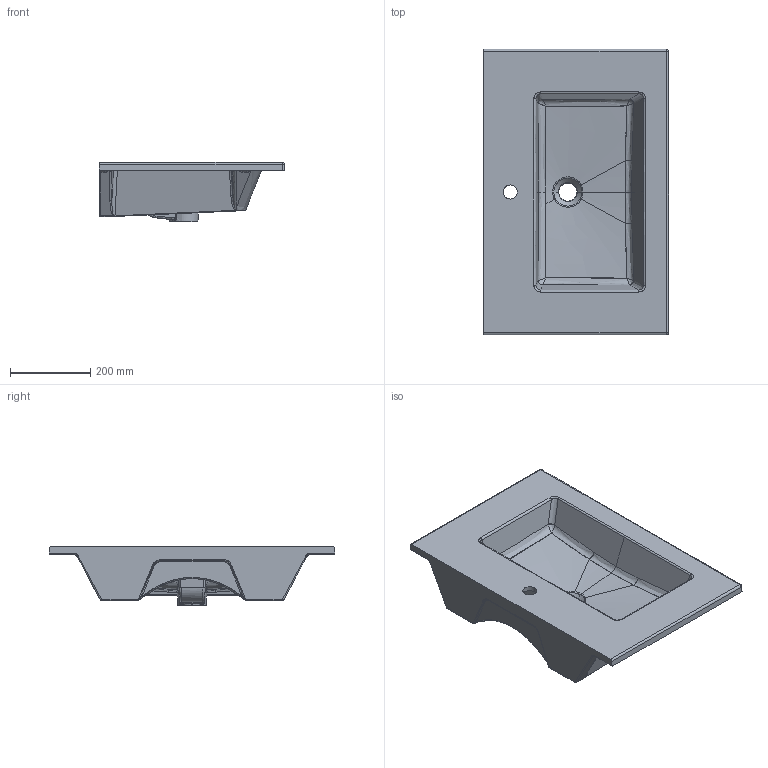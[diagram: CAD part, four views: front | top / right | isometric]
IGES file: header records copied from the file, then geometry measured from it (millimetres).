
Start section: START RECORD GO HERE.
Global section: file name: 7222.igs; native system: DASSAULT SYSTEMES CATIA V5 R19 - www.3ds.com; preprocessor: CATIA Version 5 Release 19 SP 5 ; author: gioge; organization: LAPTOP-G94B6G74; date: 20201002.170700; units: millimetre
Bounding box: 460.7 x 711.4 x 147.5 mm (x, y, z)
Surface area: 1047078.2 mm2 (no closed solid volume)
Topology: 0 solids, 0 shells, 433 faces, 2025 edges, 1982 vertices
Faces by surface type: bspline 229, revolution 176, plane 26, extrusion 2
